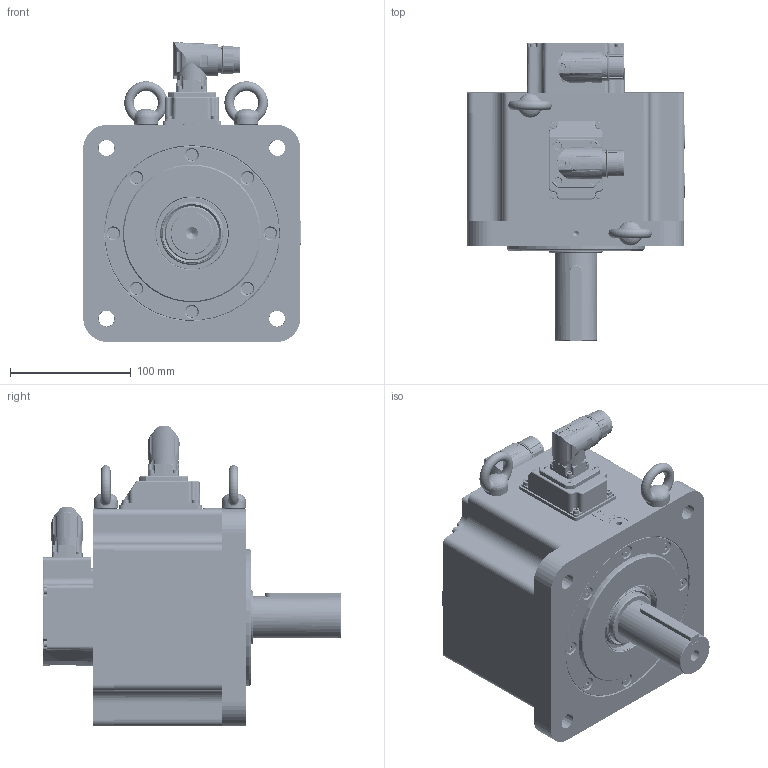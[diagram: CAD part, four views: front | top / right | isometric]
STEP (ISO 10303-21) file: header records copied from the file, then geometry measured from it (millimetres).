
FILE_DESCRIPTION( ( 'Unknown' ), '1' );
FILE_NAME( 'U:/05_Progetto TCE/010-TCE motor drawings/TCE180/vuoti/TCE180 6A XX 3 A2 0 C2.stp', 'Unknown', ( 'Unknown' ), ( 'Unknown' ), 'PSStep 17.0.49', 'Unknown', ' ' );
FILE_SCHEMA( ( 'AUTOMOTIVE_DESIGN { 1 0 10303 214 1 1 1 1 }' ) );
Length unit declared in the file: millimetre
Products named in the file (15): 1; 2; 3; 4; 5; 6; 7; 8; 9; 10; 11; 12; 13; 14; 005204000001
Bounding box: 180.3 x 247 x 248.5 mm (x, y, z)
Volume: 2332222.2 mm3; surface area: 482572.6 mm2
Topology: 15 solids, 112 shells, 3264 faces, 8146 edges, 5263 vertices
Faces by surface type: plane 1544, cylinder 734, cone 367, bspline 274, torus 212, sphere 93, extrusion 38, revolution 2
Full cylindrical faces by diameter (mm): 0.5 x1, 1 x21, 1.2 x17, 1.4 x4, 2 x4, 2.013 x4, 2.2 x2, 2.459 x24, 2.5 x8, 2.6 x4, 2.8 x4, 3 x29, 3.2 x1, 3.242 x6, 3.5 x8, 4 x9, 4.134 x24, 4.4 x12, 4.5 x2, 4.7 x4, 4.917 x2, 5 x4, 5.5 x11, 5.8 x1, 5.9 x2, 6.647 x22, 6.8 x1, 7 x4, 8 x9, 8.5 x4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
Entity records: 143009 total; most frequent: CARTESIAN_POINT 47624, DIRECTION 14285, ORIENTED_EDGE 13796, EDGE_CURVE 6898, AXIS2_PLACEMENT_3D 5437, VERTEX_POINT 4910, EDGE_LOOP 4369, FACE_OUTER_BOUND 3770
